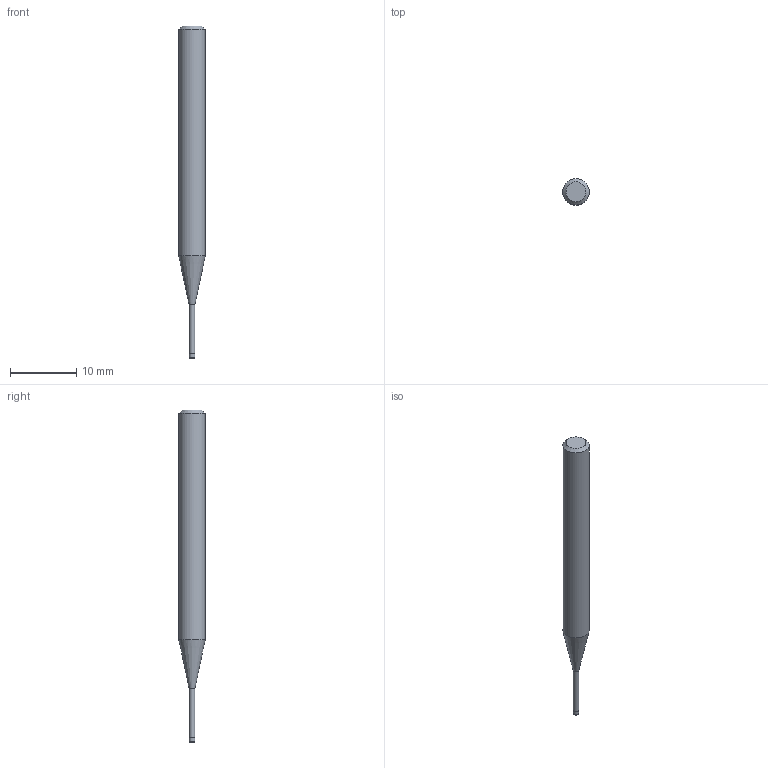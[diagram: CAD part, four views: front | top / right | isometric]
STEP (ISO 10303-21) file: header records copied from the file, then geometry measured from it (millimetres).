
FILE_DESCRIPTION((''),'2;1');
FILE_NAME('C:\Users\nsx150\AppData\Local\Temp\Mastercam 2021\3SYKECWX22\TEMP.step','2021-04-22T09:46:40',(''),(''),'STEP Write','Mastercam 2021 ... CNC Software, Inc.','');
FILE_SCHEMA(('AUTOMOTIVE_DESIGN'));
Length unit declared in the file: millimetre
Products named in the file (1): None
Bounding box: 4 x 4 x 50 mm (x, y, z)
Volume: 476.9 mm3; surface area: 524.1 mm2
Topology: 2 solids, 2 shells, 10 faces, 14 edges, 8 vertices
Faces by surface type: plane 4, cylinder 3, cone 2, torus 1
Full cylindrical faces by diameter (mm): 0.85 x1, 0.9 x1, 4 x1
Entity records: 232 total; most frequent: DIRECTION 40, CARTESIAN_POINT 28, AXIS2_PLACEMENT_3D 20, ORIENTED_EDGE 16, EDGE_LOOP 16, STYLED_ITEM 13, ADVANCED_FACE 10, FACE_BOUND 10
